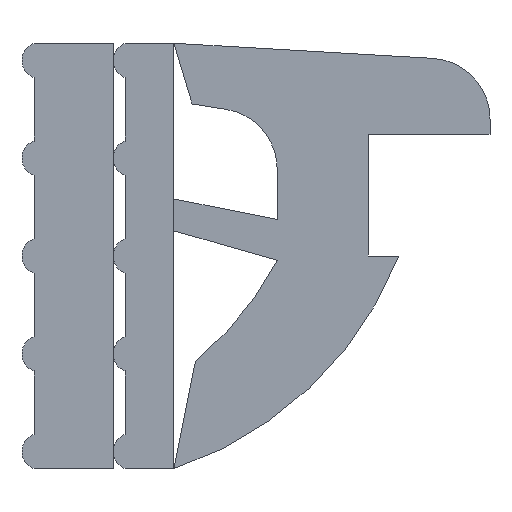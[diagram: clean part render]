
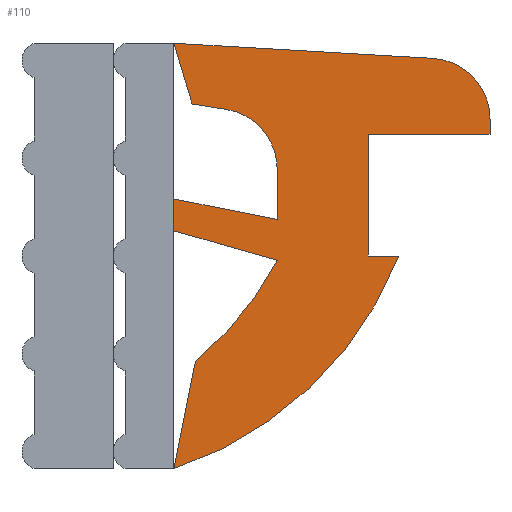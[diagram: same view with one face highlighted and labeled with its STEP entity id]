
A CAD part, front view. The second image highlights one B-rep face of the part: STEP entity #110.
In plain terms, the highlighted planar face has unit normal (0, -1, 0).
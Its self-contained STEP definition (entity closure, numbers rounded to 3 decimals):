
#110=ADVANCED_FACE('',(#238),#239,.F.);
#238=FACE_OUTER_BOUND('',#395,.T.);
#239=PLANE('',#396);
#395=EDGE_LOOP('',(#605,#606,#607,#608,#609,#610,#611,#612,#613,#614,#615,#616,#617,#618,#619,#620));
#396=AXIS2_PLACEMENT_3D('',#621,#622,#623);
#605=ORIENTED_EDGE('',*,*,#992,.T.);
#606=ORIENTED_EDGE('',*,*,#993,.T.);
#607=ORIENTED_EDGE('',*,*,#994,.T.);
#608=ORIENTED_EDGE('',*,*,#995,.T.);
#609=ORIENTED_EDGE('',*,*,#996,.T.);
#610=ORIENTED_EDGE('',*,*,#980,.T.);
#611=ORIENTED_EDGE('',*,*,#997,.T.);
#612=ORIENTED_EDGE('',*,*,#998,.T.);
#613=ORIENTED_EDGE('',*,*,#999,.T.);
#614=ORIENTED_EDGE('',*,*,#1000,.T.);
#615=ORIENTED_EDGE('',*,*,#1001,.T.);
#616=ORIENTED_EDGE('',*,*,#1002,.T.);
#617=ORIENTED_EDGE('',*,*,#1003,.T.);
#618=ORIENTED_EDGE('',*,*,#1004,.T.);
#619=ORIENTED_EDGE('',*,*,#975,.T.);
#620=ORIENTED_EDGE('',*,*,#941,.T.);
#621=CARTESIAN_POINT('',(1.1,0.,-0.575));
#622=DIRECTION('',(0.0,1.0,0.0));
#623=DIRECTION('',(-1.0,0.0,0.0));
#941=EDGE_CURVE('',#1120,#1118,#1121,.T.);
#975=EDGE_CURVE('',#1182,#1120,#1183,.T.);
#980=EDGE_CURVE('',#1191,#1189,#1192,.T.);
#992=EDGE_CURVE('',#1118,#1210,#1211,.T.);
#993=EDGE_CURVE('',#1210,#1212,#1213,.T.);
#994=EDGE_CURVE('',#1212,#1214,#1215,.T.);
#995=EDGE_CURVE('',#1214,#1216,#1217,.T.);
#996=EDGE_CURVE('',#1216,#1191,#1218,.T.);
#997=EDGE_CURVE('',#1189,#1219,#1220,.T.);
#998=EDGE_CURVE('',#1219,#1221,#1222,.T.);
#999=EDGE_CURVE('',#1221,#1223,#1224,.T.);
#1000=EDGE_CURVE('',#1223,#1225,#1226,.T.);
#1001=EDGE_CURVE('',#1225,#1227,#1228,.T.);
#1002=EDGE_CURVE('',#1227,#1229,#1230,.T.);
#1003=EDGE_CURVE('',#1229,#1231,#1232,.T.);
#1004=EDGE_CURVE('',#1231,#1182,#1233,.T.);
#1118=VERTEX_POINT('',#1372);
#1120=VERTEX_POINT('',#1375);
#1121=LINE('',#1376,#1377);
#1182=VERTEX_POINT('',#1457);
#1183=LINE('',#1458,#1459);
#1189=VERTEX_POINT('',#1467);
#1191=VERTEX_POINT('',#1470);
#1192=LINE('',#1471,#1472);
#1210=VERTEX_POINT('',#1496);
#1211=LINE('',#1497,#1498);
#1212=VERTEX_POINT('',#1499);
#1213=CIRCLE('',#1500,1.0);
#1214=VERTEX_POINT('',#1501);
#1215=LINE('',#1502,#1503);
#1216=VERTEX_POINT('',#1504);
#1217=LINE('',#1505,#1506);
#1218=LINE('',#1507,#1508);
#1219=VERTEX_POINT('',#1509);
#1220=CIRCLE('',#1510,5.398);
#1221=VERTEX_POINT('',#1511);
#1222=LINE('',#1512,#1513);
#1223=VERTEX_POINT('',#1514);
#1224=CIRCLE('',#1515,6.0);
#1225=VERTEX_POINT('',#1516);
#1226=LINE('',#1517,#1518);
#1227=VERTEX_POINT('',#1519);
#1228=LINE('',#1520,#1521);
#1229=VERTEX_POINT('',#1522);
#1230=LINE('',#1523,#1524);
#1231=VERTEX_POINT('',#1525);
#1232=LINE('',#1526,#1527);
#1233=CIRCLE('',#1528,1.0);
#1372=CARTESIAN_POINT('',(0.7,0.,0.5));
#1375=CARTESIAN_POINT('',(0.4,0.,1.5));
#1376=CARTESIAN_POINT('',(0.4,0.,1.5));
#1377=VECTOR('',#1695,1.0);
#1457=CARTESIAN_POINT('',(4.654,0.,1.252));
#1458=CARTESIAN_POINT('',(4.654,0.,1.252));
#1459=VECTOR('',#1745,1.0);
#1467=CARTESIAN_POINT('',(2.1,0.,-2.071));
#1470=CARTESIAN_POINT('',(0.4,0.,-1.586));
#1471=CARTESIAN_POINT('',(0.4,0.,-1.586));
#1472=VECTOR('',#1749,1.0);
#1496=CARTESIAN_POINT('',(1.254,0.,0.413));
#1497=CARTESIAN_POINT('',(0.7,0.,0.5));
#1498=VECTOR('',#1762,1.0);
#1499=CARTESIAN_POINT('',(2.1,0.,-0.575));
#1500=AXIS2_PLACEMENT_3D('',#1763,#1764,#1765);
#1501=CARTESIAN_POINT('',(2.1,0.,-1.4));
#1502=CARTESIAN_POINT('',(2.1,0.,-0.575));
#1503=VECTOR('',#1766,1.0);
#1504=CARTESIAN_POINT('',(0.4,0.,-1.06));
#1505=CARTESIAN_POINT('',(2.1,0.,-1.4));
#1506=VECTOR('',#1767,1.0);
#1507=CARTESIAN_POINT('',(0.4,0.,-1.06));
#1508=VECTOR('',#1768,1.0);
#1509=CARTESIAN_POINT('',(0.754,0.,-3.732));
#1510=AXIS2_PLACEMENT_3D('',#1769,#1770,#1771);
#1511=CARTESIAN_POINT('',(0.4,0.,-5.5));
#1512=CARTESIAN_POINT('',(0.754,0.,-3.732));
#1513=VECTOR('',#1772,1.0);
#1514=CARTESIAN_POINT('',(4.1,0.,-2.));
#1515=AXIS2_PLACEMENT_3D('',#1773,#1774,#1775);
#1516=CARTESIAN_POINT('',(3.6,0.,-2.));
#1517=CARTESIAN_POINT('',(4.1,0.,-2.));
#1518=VECTOR('',#1776,1.0);
#1519=CARTESIAN_POINT('',(3.6,0.,0.));
#1520=CARTESIAN_POINT('',(3.6,0.,-2.));
#1521=VECTOR('',#1777,1.0);
#1522=CARTESIAN_POINT('',(5.6,0.,0.));
#1523=CARTESIAN_POINT('',(3.6,0.,0.));
#1524=VECTOR('',#1778,1.0);
#1525=CARTESIAN_POINT('',(5.6,0.,0.253));
#1526=CARTESIAN_POINT('',(5.6,0.,0.));
#1527=VECTOR('',#1779,1.0);
#1528=AXIS2_PLACEMENT_3D('',#1780,#1781,#1782);
#1695=DIRECTION('',(0.287,0.0,-0.958));
#1745=DIRECTION('',(-0.998,0.0,0.058));
#1749=DIRECTION('',(0.962,0.0,-0.275));
#1762=DIRECTION('',(0.988,0.0,-0.154));
#1763=CARTESIAN_POINT('',(1.1,0.,-0.575));
#1764=DIRECTION('',(0.0,1.0,0.0));
#1765=DIRECTION('',(-1.0,0.0,0.0));
#1766=DIRECTION('',(0.0,0.0,-1.0));
#1767=DIRECTION('',(-0.981,0.0,0.196));
#1768=DIRECTION('',(0.0,0.0,-1.0));
#1769=CARTESIAN_POINT('',(-2.683,0.,0.431));
#1770=DIRECTION('',(0.0,1.0,0.0));
#1771=DIRECTION('',(-1.0,0.0,0.0));
#1772=DIRECTION('',(-0.196,0.0,-0.981));
#1773=CARTESIAN_POINT('',(-1.483,0.,0.197));
#1774=DIRECTION('',(0.0,-1.0,0.0));
#1775=DIRECTION('',(1.0,0.0,0.0));
#1776=DIRECTION('',(-1.0,0.0,0.));
#1777=DIRECTION('',(0.0,0.0,1.0));
#1778=DIRECTION('',(1.0,0.0,0.0));
#1779=DIRECTION('',(0.0,0.0,1.0));
#1780=CARTESIAN_POINT('',(4.6,0.,0.253));
#1781=DIRECTION('',(0.0,-1.0,0.0));
#1782=DIRECTION('',(1.0,0.0,0.0));
